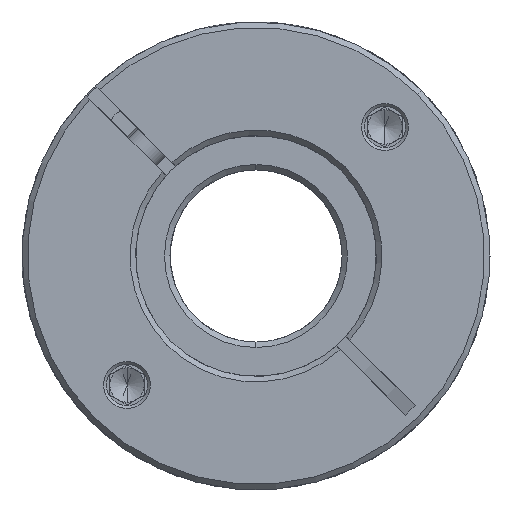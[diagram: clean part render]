
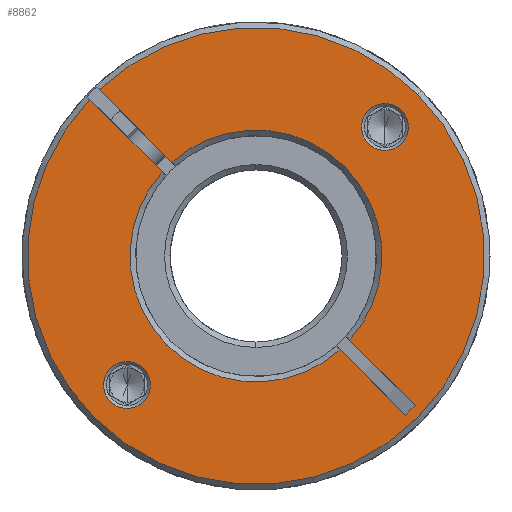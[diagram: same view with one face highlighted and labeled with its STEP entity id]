
A CAD part, front view. The second image highlights one B-rep face of the part: STEP entity #8862.
In plain terms, the highlighted planar face has unit normal (0, -1, 0).
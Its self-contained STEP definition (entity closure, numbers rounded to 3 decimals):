
#131 = CARTESIAN_POINT ( 'NONE',  ( 16.003, -67.045, 86.738 ) ) ;
#181 = DIRECTION ( 'NONE',  ( 0., -1., 0. ) ) ;
#221 = ORIENTED_EDGE ( 'NONE', *, *, #18470, .T. ) ;
#355 = CIRCLE ( 'NONE', #18457, 18.3 ) ;
#390 = ORIENTED_EDGE ( 'NONE', *, *, #11585, .F. ) ;
#396 = CARTESIAN_POINT ( 'NONE',  ( -2.735, -67.045, 68. ) ) ;
#453 = DIRECTION ( 'NONE',  ( 0., 1., 0. ) ) ;
#457 = ORIENTED_EDGE ( 'NONE', *, *, #14866, .T. ) ;
#516 = CARTESIAN_POINT ( 'NONE',  ( 10.205, -67.045, 80.94 ) ) ;
#604 = DIRECTION ( 'NONE',  ( 0., -1., 0. ) ) ;
#616 = ORIENTED_EDGE ( 'NONE', *, *, #13150, .T. ) ;
#793 = CARTESIAN_POINT ( 'NONE',  ( -23.878, -67.045, 46.858 ) ) ;
#914 = VECTOR ( 'NONE', #21015, 1000. ) ;
#1721 = VERTEX_POINT ( 'NONE', #12106 ) ;
#2183 = AXIS2_PLACEMENT_3D ( 'NONE', #4848, #9810, #6513 ) ;
#2229 = EDGE_CURVE ( 'NONE', #20266, #10697, #18732, .T. ) ;
#2304 = CIRCLE ( 'NONE', #8124, 3.4 ) ;
#2500 = CARTESIAN_POINT ( 'NONE',  ( -25.493, -67.045, 92.172 ) ) ;
#2595 = CARTESIAN_POINT ( 'NONE',  ( -2.735, -67.045, 68. ) ) ;
#2619 = DIRECTION ( 'NONE',  ( 0.707, 0., -0.707 ) ) ;
#2653 = VERTEX_POINT ( 'NONE', #516 ) ;
#2767 = EDGE_CURVE ( 'NONE', #20539, #4172, #11490, .T. ) ;
#2975 = VERTEX_POINT ( 'NONE', #17892 ) ;
#3310 = VECTOR ( 'NONE', #21018, 1000. ) ;
#3449 = VERTEX_POINT ( 'NONE', #19143 ) ;
#3525 = ORIENTED_EDGE ( 'NONE', *, *, #10251, .F. ) ;
#3676 = VERTEX_POINT ( 'NONE', #10144 ) ;
#4111 = CARTESIAN_POINT ( 'NONE',  ( -2.028, -67.045, 68.707 ) ) ;
#4172 = VERTEX_POINT ( 'NONE', #19089 ) ;
#4431 = ORIENTED_EDGE ( 'NONE', *, *, #20035, .T. ) ;
#4478 = AXIS2_PLACEMENT_3D ( 'NONE', #13471, #16586, #10556 ) ;
#4848 = CARTESIAN_POINT ( 'NONE',  ( -21.473, -67.045, 49.262 ) ) ;
#4896 = LINE ( 'NONE', #17989, #8469 ) ;
#4952 = EDGE_LOOP ( 'NONE', ( #5362, #457 ) ) ;
#5362 = ORIENTED_EDGE ( 'NONE', *, *, #17901, .T. ) ;
#5902 = ORIENTED_EDGE ( 'NONE', *, *, #19460, .T. ) ;
#5955 = EDGE_CURVE ( 'NONE', #4172, #2653, #355, .T. ) ;
#6184 = AXIS2_PLACEMENT_3D ( 'NONE', #9710, #21250, #11511 ) ;
#6513 = DIRECTION ( 'NONE',  ( 0.707, 0., 0.707 ) ) ;
#6519 = DIRECTION ( 'NONE',  ( 0.707, 0., 0.707 ) ) ;
#7370 = DIRECTION ( 'NONE',  ( 0.707, 0., -0.707 ) ) ;
#7610 = CARTESIAN_POINT ( 'NONE',  ( -2.028, -67.045, 68.707 ) ) ;
#7639 = CARTESIAN_POINT ( 'NONE',  ( -3.442, -67.045, 67.293 ) ) ;
#7876 = AXIS2_PLACEMENT_3D ( 'NONE', #2595, #16209, #12952 ) ;
#8124 = AXIS2_PLACEMENT_3D ( 'NONE', #131, #13229, #9580 ) ;
#8182 = CARTESIAN_POINT ( 'NONE',  ( 18.407, -67.045, 89.142 ) ) ;
#8255 = VERTEX_POINT ( 'NONE', #12681 ) ;
#8427 = CIRCLE ( 'NONE', #20992, 18.3 ) ;
#8469 = VECTOR ( 'NONE', #16392, 1000. ) ;
#8604 = CARTESIAN_POINT ( 'NONE',  ( -26.211, -67.045, 44.524 ) ) ;
#8862 = ADVANCED_FACE ( 'NONE', ( #12365, #9288, #10829 ), #9643, .T. ) ;
#9275 = CARTESIAN_POINT ( 'NONE',  ( -16.363, -67.045, 80.214 ) ) ;
#9288 = FACE_BOUND ( 'NONE', #20317, .T. ) ;
#9355 = DIRECTION ( 'NONE',  ( 0., -1., 0. ) ) ;
#9467 = VECTOR ( 'NONE', #7370, 1000. ) ;
#9580 = DIRECTION ( 'NONE',  ( 0.707, 0., 0.707 ) ) ;
#9643 = PLANE ( 'NONE',  #6184 ) ;
#9710 = CARTESIAN_POINT ( 'NONE',  ( -2.735, -67.045, 68. ) ) ;
#9810 = DIRECTION ( 'NONE',  ( 0., 1., 0. ) ) ;
#9825 = DIRECTION ( 'NONE',  ( 0.707, 0., 0.707 ) ) ;
#10126 = CIRCLE ( 'NONE', #11240, 33.2 ) ;
#10144 = CARTESIAN_POINT ( 'NONE',  ( 20.741, -67.045, 91.476 ) ) ;
#10251 = EDGE_CURVE ( 'NONE', #3449, #8255, #4896, .T. ) ;
#10556 = DIRECTION ( 'NONE',  ( 0.707, 0., 0.707 ) ) ;
#10697 = VERTEX_POINT ( 'NONE', #16501 ) ;
#10829 = FACE_OUTER_BOUND ( 'NONE', #18138, .T. ) ;
#11043 = CIRCLE ( 'NONE', #7876, 18.3 ) ;
#11147 = CARTESIAN_POINT ( 'NONE',  ( -2.735, -67.045, 68. ) ) ;
#11240 = AXIS2_PLACEMENT_3D ( 'NONE', #396, #604, #12144 ) ;
#11347 = CARTESIAN_POINT ( 'NONE',  ( -2.735, -67.045, 68. ) ) ;
#11490 = LINE ( 'NONE', #7610, #19483 ) ;
#11511 = DIRECTION ( 'NONE',  ( 0.707, 0., 0.707 ) ) ;
#11579 = CARTESIAN_POINT ( 'NONE',  ( -2.735, -67.045, 68. ) ) ;
#11585 = EDGE_CURVE ( 'NONE', #15300, #21180, #12771, .T. ) ;
#11712 = DIRECTION ( 'NONE',  ( 0.707, 0., 0.707 ) ) ;
#11850 = CARTESIAN_POINT ( 'NONE',  ( -2.735, -67.045, 68. ) ) ;
#11866 = AXIS2_PLACEMENT_3D ( 'NONE', #11147, #9355, #12779 ) ;
#11980 = DIRECTION ( 'NONE',  ( 0.707, 0., 0.707 ) ) ;
#12106 = CARTESIAN_POINT ( 'NONE',  ( 13.599, -67.045, 84.334 ) ) ;
#12144 = DIRECTION ( 'NONE',  ( 0.707, 0., 0.707 ) ) ;
#12234 = ORIENTED_EDGE ( 'NONE', *, *, #20684, .T. ) ;
#12365 = FACE_BOUND ( 'NONE', #4952, .T. ) ;
#12472 = EDGE_CURVE ( 'NONE', #3449, #21180, #11043, .T. ) ;
#12668 = ORIENTED_EDGE ( 'NONE', *, *, #15949, .T. ) ;
#12681 = CARTESIAN_POINT ( 'NONE',  ( 18.988, -67.045, 44.862 ) ) ;
#12771 = LINE ( 'NONE', #7639, #914 ) ;
#12779 = DIRECTION ( 'NONE',  ( 0.707, 0., 0.707 ) ) ;
#12952 = DIRECTION ( 'NONE',  ( 0.707, 0., 0.707 ) ) ;
#13011 = VERTEX_POINT ( 'NONE', #8182 ) ;
#13150 = EDGE_CURVE ( 'NONE', #2653, #20266, #8427, .T. ) ;
#13229 = DIRECTION ( 'NONE',  ( 0., 1., 0. ) ) ;
#13244 = ORIENTED_EDGE ( 'NONE', *, *, #12472, .T. ) ;
#13268 = VERTEX_POINT ( 'NONE', #793 ) ;
#13471 = CARTESIAN_POINT ( 'NONE',  ( 16.003, -67.045, 86.738 ) ) ;
#13863 = CARTESIAN_POINT ( 'NONE',  ( -26.908, -67.045, 90.758 ) ) ;
#13882 = ORIENTED_EDGE ( 'NONE', *, *, #20915, .T. ) ;
#14865 = LINE ( 'NONE', #15891, #3310 ) ;
#14866 = EDGE_CURVE ( 'NONE', #1721, #13011, #18652, .T. ) ;
#15300 = VERTEX_POINT ( 'NONE', #13863 ) ;
#15415 = CARTESIAN_POINT ( 'NONE',  ( 10.893, -67.045, 55.786 ) ) ;
#15891 = CARTESIAN_POINT ( 'NONE',  ( 18.988, -67.045, 44.862 ) ) ;
#15949 = EDGE_CURVE ( 'NONE', #15300, #21030, #10126, .T. ) ;
#16101 = ORIENTED_EDGE ( 'NONE', *, *, #2767, .T. ) ;
#16209 = DIRECTION ( 'NONE',  ( 0., 1., 0. ) ) ;
#16235 = DIRECTION ( 'NONE',  ( 0., 1., 0. ) ) ;
#16271 = AXIS2_PLACEMENT_3D ( 'NONE', #19325, #16235, #6519 ) ;
#16392 = DIRECTION ( 'NONE',  ( 0.707, 0., -0.707 ) ) ;
#16410 = ORIENTED_EDGE ( 'NONE', *, *, #2229, .T. ) ;
#16501 = CARTESIAN_POINT ( 'NONE',  ( 20.402, -67.045, 46.277 ) ) ;
#16586 = DIRECTION ( 'NONE',  ( 0., 1., 0. ) ) ;
#17892 = CARTESIAN_POINT ( 'NONE',  ( -19.069, -67.045, 51.666 ) ) ;
#17901 = EDGE_CURVE ( 'NONE', #13011, #1721, #2304, .T. ) ;
#17989 = CARTESIAN_POINT ( 'NONE',  ( -3.442, -67.045, 67.293 ) ) ;
#18138 = EDGE_LOOP ( 'NONE', ( #390, #12668, #5902, #13882, #16101, #20130, #616, #16410, #12234, #3525, #13244 ) ) ;
#18457 = AXIS2_PLACEMENT_3D ( 'NONE', #11347, #19627, #9825 ) ;
#18470 = EDGE_CURVE ( 'NONE', #2975, #13268, #20344, .T. ) ;
#18643 = AXIS2_PLACEMENT_3D ( 'NONE', #11579, #181, #11712 ) ;
#18652 = CIRCLE ( 'NONE', #4478, 3.4 ) ;
#18732 = LINE ( 'NONE', #4111, #9467 ) ;
#19089 = CARTESIAN_POINT ( 'NONE',  ( -14.949, -67.045, 81.628 ) ) ;
#19143 = CARTESIAN_POINT ( 'NONE',  ( 9.479, -67.045, 54.372 ) ) ;
#19325 = CARTESIAN_POINT ( 'NONE',  ( -21.473, -67.045, 49.262 ) ) ;
#19460 = EDGE_CURVE ( 'NONE', #21030, #3676, #20854, .T. ) ;
#19483 = VECTOR ( 'NONE', #2619, 1000. ) ;
#19627 = DIRECTION ( 'NONE',  ( 0., 1., 0. ) ) ;
#20035 = EDGE_CURVE ( 'NONE', #13268, #2975, #21370, .T. ) ;
#20130 = ORIENTED_EDGE ( 'NONE', *, *, #5955, .T. ) ;
#20266 = VERTEX_POINT ( 'NONE', #15415 ) ;
#20317 = EDGE_LOOP ( 'NONE', ( #221, #4431 ) ) ;
#20344 = CIRCLE ( 'NONE', #16271, 3.4 ) ;
#20539 = VERTEX_POINT ( 'NONE', #2500 ) ;
#20684 = EDGE_CURVE ( 'NONE', #10697, #8255, #14865, .T. ) ;
#20783 = CIRCLE ( 'NONE', #18643, 33.2 ) ;
#20854 = CIRCLE ( 'NONE', #11866, 33.2 ) ;
#20915 = EDGE_CURVE ( 'NONE', #3676, #20539, #20783, .T. ) ;
#20992 = AXIS2_PLACEMENT_3D ( 'NONE', #11850, #453, #11980 ) ;
#21015 = DIRECTION ( 'NONE',  ( 0.707, 0., -0.707 ) ) ;
#21018 = DIRECTION ( 'NONE',  ( -0.707, 0., -0.707 ) ) ;
#21030 = VERTEX_POINT ( 'NONE', #8604 ) ;
#21180 = VERTEX_POINT ( 'NONE', #9275 ) ;
#21250 = DIRECTION ( 'NONE',  ( 0., -1., 0. ) ) ;
#21370 = CIRCLE ( 'NONE', #2183, 3.4 ) ;
